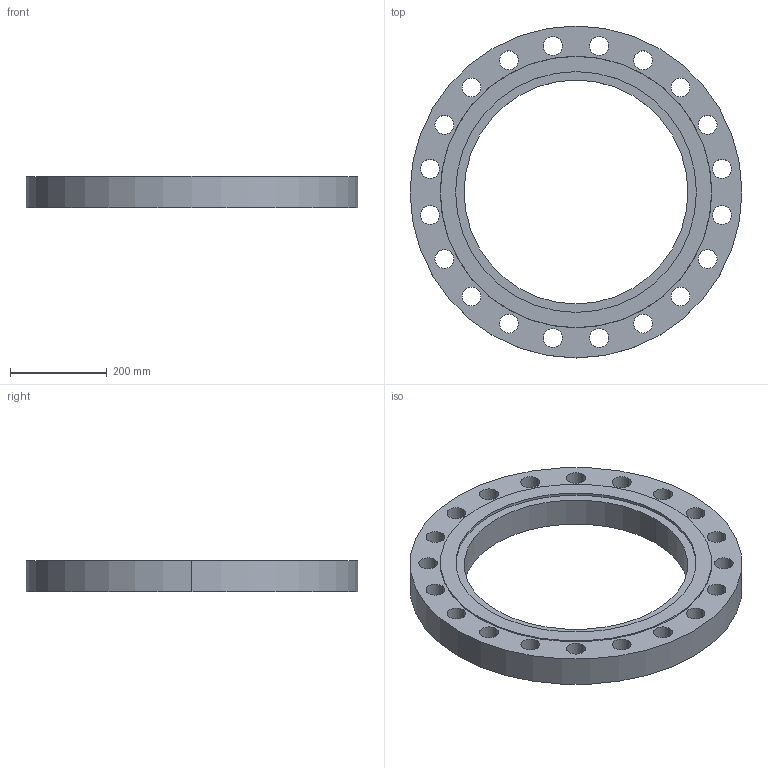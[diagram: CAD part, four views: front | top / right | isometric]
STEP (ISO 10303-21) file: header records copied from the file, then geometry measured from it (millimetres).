
FILE_DESCRIPTION (( 'STEP AP214' ), '1' );
FILE_NAME ('PN40 DN450 Type 01 - Type G Face.STEP', '2018-12-29T02:50:52', ( '' ), ( '' ), 'SwSTEP 2.0', 'SolidWorks 2019', '' );
FILE_SCHEMA (( 'AUTOMOTIVE_DESIGN' ));
Length unit declared in the file: millimetre
Products named in the file (1): PN40 DN450 Type 01 - Type G Face
Bounding box: 685 x 685 x 66 mm (x, y, z)
Volume: 11340834.4 mm3; surface area: 747904.5 mm2
Topology: 1 solids, 1 shells, 52 faces, 144 edges, 96 vertices
Faces by surface type: cylinder 46, plane 4, cone 2
Entity records: 1842 total; most frequent: DIRECTION 346, CARTESIAN_POINT 293, ORIENTED_EDGE 288, AXIS2_PLACEMENT_3D 149, EDGE_CURVE 144, EDGE_LOOP 96, CIRCLE 96, VERTEX_POINT 96
